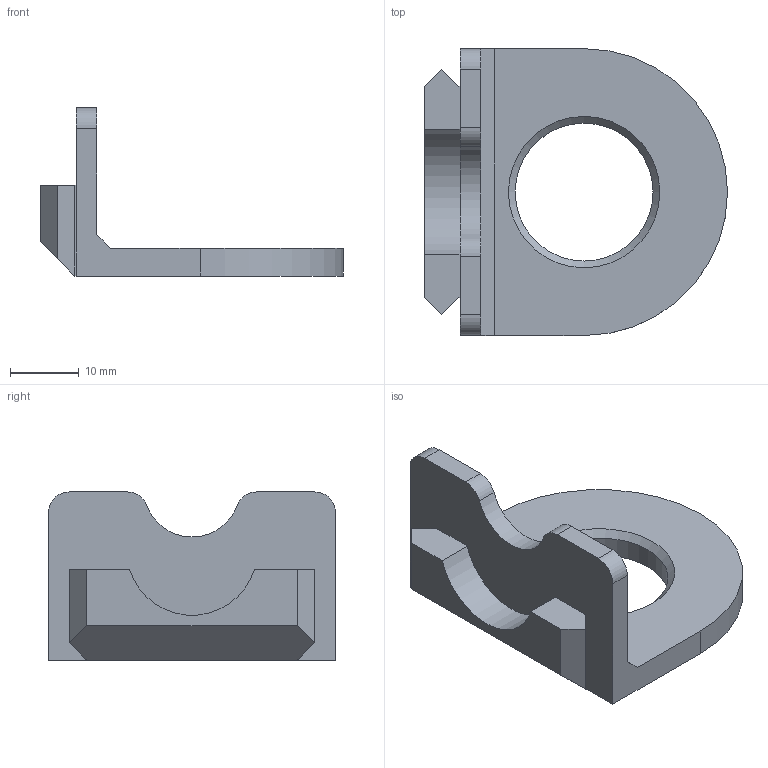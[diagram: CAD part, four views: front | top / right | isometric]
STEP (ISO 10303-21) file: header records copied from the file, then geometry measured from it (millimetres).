
FILE_DESCRIPTION(/* description */ ('','CAx-IF Rec.Pracs.---Representation and Presentation of Product Manufacturing Information (PMI)---4.0---2014-10-13'),/* implementation_level */ '2;1');
FILE_NAME(/* name */ 'GOEWS Single Hanger 1xHole.step',/* time_stamp */ '2024-11-28T10:02:43-05:00',/* author */ (''),/* organization */ (''),/* preprocessor_version */ 'ST-DEVELOPER v20',/* originating_system */ 'Autodesk Translation Framework v13.20.0.188',/* authorisation */ '');
FILE_SCHEMA (('AP242_MANAGED_MODEL_BASED_3D_ENGINEERING_MIM_LF { 1 0 10303 442 1 1 4 }'));
Length unit declared in the file: millimetre
Products named in the file (1): GOEWS Single Hanger 1xHole
Bounding box: 43.95 x 41.6 x 24.39 mm (x, y, z)
Volume: 8194.6 mm3; surface area: 5087.6 mm2
Topology: 1 solids, 1 shells, 29 faces, 75 edges, 49 vertices
Faces by surface type: plane 20, cylinder 8, cone 1
Full cylindrical faces by diameter (mm): 20 x1
Entity records: 919 total; most frequent: CARTESIAN_POINT 154, DIRECTION 152, ORIENTED_EDGE 150, EDGE_CURVE 75, LINE 58, VECTOR 58, VERTEX_POINT 49, AXIS2_PLACEMENT_3D 47
